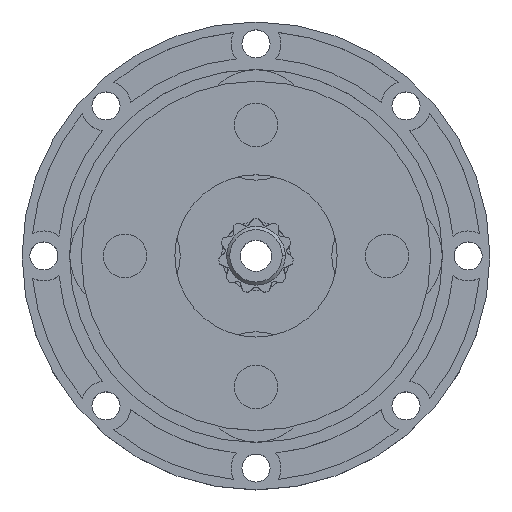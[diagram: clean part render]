
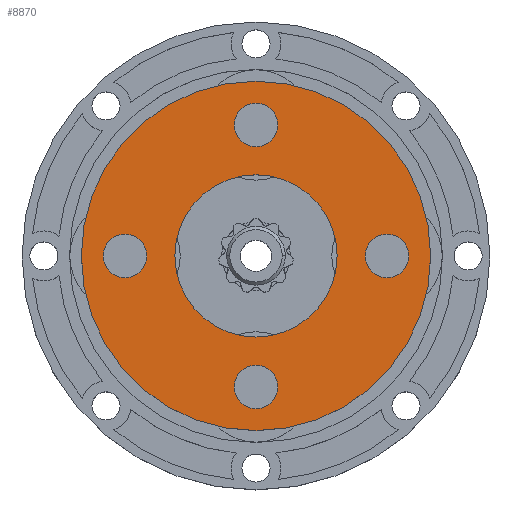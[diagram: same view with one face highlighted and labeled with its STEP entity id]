
A CAD part, top view. The second image highlights one B-rep face of the part: STEP entity #8870.
In plain terms, the highlighted planar face has unit normal (0, 0, 1).
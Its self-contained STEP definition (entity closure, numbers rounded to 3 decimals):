
#82 = EDGE_CURVE ( 'NONE', #8719, #13362, #825, .T. ) ;
#258 = ORIENTED_EDGE ( 'NONE', *, *, #1738, .T. ) ;
#490 = ORIENTED_EDGE ( 'NONE', *, *, #857, .F. ) ;
#825 = CIRCLE ( 'NONE', #10639, 13. ) ;
#857 = EDGE_CURVE ( 'NONE', #2192, #1147, #9424, .T. ) ;
#896 = AXIS2_PLACEMENT_3D ( 'NONE', #1658, #8513, #16490 ) ;
#1079 = AXIS2_PLACEMENT_3D ( 'NONE', #4297, #9666, #9488 ) ;
#1147 = VERTEX_POINT ( 'NONE', #15479 ) ;
#1247 = CARTESIAN_POINT ( 'NONE',  ( -3.5, 21., 8.35 ) ) ;
#1289 = ORIENTED_EDGE ( 'NONE', *, *, #10011, .F. ) ;
#1387 = VERTEX_POINT ( 'NONE', #15266 ) ;
#1414 = EDGE_CURVE ( 'NONE', #9799, #2969, #16606, .T. ) ;
#1429 = EDGE_LOOP ( 'NONE', ( #13958, #15145 ) ) ;
#1658 = CARTESIAN_POINT ( 'NONE',  ( 0., 0., 8.35 ) ) ;
#1738 = EDGE_CURVE ( 'NONE', #2969, #9799, #8766, .T. ) ;
#2075 = CIRCLE ( 'NONE', #15250, 3.5 ) ;
#2192 = VERTEX_POINT ( 'NONE', #9101 ) ;
#2398 = EDGE_LOOP ( 'NONE', ( #12023, #3997 ) ) ;
#2537 = CARTESIAN_POINT ( 'NONE',  ( 0., 0., 8.35 ) ) ;
#2587 = AXIS2_PLACEMENT_3D ( 'NONE', #6740, #11918, #14721 ) ;
#2662 = DIRECTION ( 'NONE',  ( 0., 1., 0. ) ) ;
#2969 = VERTEX_POINT ( 'NONE', #3595 ) ;
#3595 = CARTESIAN_POINT ( 'NONE',  ( -28., 0., 8.35 ) ) ;
#3893 = CARTESIAN_POINT ( 'NONE',  ( 21., -3.5, 8.35 ) ) ;
#3910 = AXIS2_PLACEMENT_3D ( 'NONE', #11739, #10517, #6231 ) ;
#3997 = ORIENTED_EDGE ( 'NONE', *, *, #8996, .F. ) ;
#4272 = DIRECTION ( 'NONE',  ( 0., -1., 0. ) ) ;
#4297 = CARTESIAN_POINT ( 'NONE',  ( 0., 21., 8.35 ) ) ;
#4818 = FACE_BOUND ( 'NONE', #8876, .T. ) ;
#5043 = CIRCLE ( 'NONE', #8402, 3.5 ) ;
#5054 = DIRECTION ( 'NONE',  ( 0., 0., 1. ) ) ;
#5391 = CARTESIAN_POINT ( 'NONE',  ( -21., 0., 8.35 ) ) ;
#5566 = DIRECTION ( 'NONE',  ( 0., 0., 1. ) ) ;
#5601 = ORIENTED_EDGE ( 'NONE', *, *, #15972, .F. ) ;
#5800 = FACE_BOUND ( 'NONE', #2398, .T. ) ;
#5826 = ORIENTED_EDGE ( 'NONE', *, *, #15313, .F. ) ;
#6017 = AXIS2_PLACEMENT_3D ( 'NONE', #13117, #11547, #14451 ) ;
#6231 = DIRECTION ( 'NONE',  ( 0., -1., 0. ) ) ;
#6293 = DIRECTION ( 'NONE',  ( 1., 0., 0. ) ) ;
#6562 = ORIENTED_EDGE ( 'NONE', *, *, #8042, .F. ) ;
#6740 = CARTESIAN_POINT ( 'NONE',  ( 0., 0., 8.35 ) ) ;
#7458 = DIRECTION ( 'NONE',  ( 1., 0., 0. ) ) ;
#7466 = ORIENTED_EDGE ( 'NONE', *, *, #11848, .F. ) ;
#7544 = FACE_OUTER_BOUND ( 'NONE', #12976, .T. ) ;
#7991 = DIRECTION ( 'NONE',  ( 1., 0., 0. ) ) ;
#8042 = EDGE_CURVE ( 'NONE', #14918, #15285, #9767, .T. ) ;
#8161 = CARTESIAN_POINT ( 'NONE',  ( 13., 0., 8.35 ) ) ;
#8402 = AXIS2_PLACEMENT_3D ( 'NONE', #14177, #17166, #6293 ) ;
#8509 = AXIS2_PLACEMENT_3D ( 'NONE', #11713, #5054, #2662 ) ;
#8513 = DIRECTION ( 'NONE',  ( 0., 0., 1. ) ) ;
#8719 = VERTEX_POINT ( 'NONE', #8161 ) ;
#8766 = CIRCLE ( 'NONE', #2587, 28. ) ;
#8870 = ADVANCED_FACE ( 'NONE', ( #15268, #11393, #5800, #4818, #7544, #11306 ), #16668, .T. ) ;
#8876 = EDGE_LOOP ( 'NONE', ( #1289, #7466 ) ) ;
#8996 = EDGE_CURVE ( 'NONE', #10715, #1387, #11483, .T. ) ;
#9101 = CARTESIAN_POINT ( 'NONE',  ( -21., -3.5, 8.35 ) ) ;
#9424 = CIRCLE ( 'NONE', #8509, 3.5 ) ;
#9488 = DIRECTION ( 'NONE',  ( 1., 0., 0. ) ) ;
#9666 = DIRECTION ( 'NONE',  ( 0., 0., 1. ) ) ;
#9767 = CIRCLE ( 'NONE', #10872, 3.5 ) ;
#9799 = VERTEX_POINT ( 'NONE', #12646 ) ;
#9927 = CIRCLE ( 'NONE', #12429, 3.5 ) ;
#9964 = CARTESIAN_POINT ( 'NONE',  ( -13., 0., 8.35 ) ) ;
#10011 = EDGE_CURVE ( 'NONE', #11139, #16307, #15659, .T. ) ;
#10517 = DIRECTION ( 'NONE',  ( 0., 0., 1. ) ) ;
#10518 = DIRECTION ( 'NONE',  ( 0., 0., 1. ) ) ;
#10638 = AXIS2_PLACEMENT_3D ( 'NONE', #15440, #11133, #7458 ) ;
#10639 = AXIS2_PLACEMENT_3D ( 'NONE', #2537, #13070, #7991 ) ;
#10715 = VERTEX_POINT ( 'NONE', #3893 ) ;
#10872 = AXIS2_PLACEMENT_3D ( 'NONE', #16536, #5566, #15221 ) ;
#11133 = DIRECTION ( 'NONE',  ( 0., 0., 1. ) ) ;
#11139 = VERTEX_POINT ( 'NONE', #1247 ) ;
#11306 = FACE_BOUND ( 'NONE', #1429, .T. ) ;
#11393 = FACE_BOUND ( 'NONE', #15161, .T. ) ;
#11483 = CIRCLE ( 'NONE', #3910, 3.5 ) ;
#11547 = DIRECTION ( 'NONE',  ( 0., 0., 1. ) ) ;
#11713 = CARTESIAN_POINT ( 'NONE',  ( -21., 0., 8.35 ) ) ;
#11739 = CARTESIAN_POINT ( 'NONE',  ( 21., 0., 8.35 ) ) ;
#11848 = EDGE_CURVE ( 'NONE', #16307, #11139, #5043, .T. ) ;
#11918 = DIRECTION ( 'NONE',  ( 0., 0., 1. ) ) ;
#12023 = ORIENTED_EDGE ( 'NONE', *, *, #16152, .F. ) ;
#12056 = DIRECTION ( 'NONE',  ( 0., 0., 1. ) ) ;
#12168 = CARTESIAN_POINT ( 'NONE',  ( 21., 0., 8.35 ) ) ;
#12429 = AXIS2_PLACEMENT_3D ( 'NONE', #17281, #10518, #13055 ) ;
#12646 = CARTESIAN_POINT ( 'NONE',  ( 28., 0., 8.35 ) ) ;
#12976 = EDGE_LOOP ( 'NONE', ( #258, #17012 ) ) ;
#13055 = DIRECTION ( 'NONE',  ( -1., 0., 0. ) ) ;
#13070 = DIRECTION ( 'NONE',  ( 0., 0., 1. ) ) ;
#13117 = CARTESIAN_POINT ( 'NONE',  ( 0., 0., 8.35 ) ) ;
#13206 = CARTESIAN_POINT ( 'NONE',  ( 3.5, -21., 8.35 ) ) ;
#13294 = DIRECTION ( 'NONE',  ( 0., 1., 0. ) ) ;
#13362 = VERTEX_POINT ( 'NONE', #9964 ) ;
#13958 = ORIENTED_EDGE ( 'NONE', *, *, #15182, .F. ) ;
#14177 = CARTESIAN_POINT ( 'NONE',  ( 0., 21., 8.35 ) ) ;
#14427 = AXIS2_PLACEMENT_3D ( 'NONE', #5391, #12056, #13294 ) ;
#14451 = DIRECTION ( 'NONE',  ( 1., 0., 0. ) ) ;
#14721 = DIRECTION ( 'NONE',  ( 1., 0., 0. ) ) ;
#14887 = CARTESIAN_POINT ( 'NONE',  ( -3.5, -21., 8.35 ) ) ;
#14918 = VERTEX_POINT ( 'NONE', #14887 ) ;
#14968 = CIRCLE ( 'NONE', #6017, 13. ) ;
#15145 = ORIENTED_EDGE ( 'NONE', *, *, #82, .F. ) ;
#15161 = EDGE_LOOP ( 'NONE', ( #5601, #6562 ) ) ;
#15182 = EDGE_CURVE ( 'NONE', #13362, #8719, #14968, .T. ) ;
#15221 = DIRECTION ( 'NONE',  ( -1., 0., 0. ) ) ;
#15250 = AXIS2_PLACEMENT_3D ( 'NONE', #12168, #16129, #4272 ) ;
#15266 = CARTESIAN_POINT ( 'NONE',  ( 21., 3.5, 8.35 ) ) ;
#15268 = FACE_BOUND ( 'NONE', #16097, .T. ) ;
#15285 = VERTEX_POINT ( 'NONE', #13206 ) ;
#15313 = EDGE_CURVE ( 'NONE', #1147, #2192, #16389, .T. ) ;
#15440 = CARTESIAN_POINT ( 'NONE',  ( 0., 0., 8.35 ) ) ;
#15479 = CARTESIAN_POINT ( 'NONE',  ( -21., 3.5, 8.35 ) ) ;
#15659 = CIRCLE ( 'NONE', #1079, 3.5 ) ;
#15972 = EDGE_CURVE ( 'NONE', #15285, #14918, #9927, .T. ) ;
#16097 = EDGE_LOOP ( 'NONE', ( #490, #5826 ) ) ;
#16129 = DIRECTION ( 'NONE',  ( 0., 0., 1. ) ) ;
#16152 = EDGE_CURVE ( 'NONE', #1387, #10715, #2075, .T. ) ;
#16307 = VERTEX_POINT ( 'NONE', #16388 ) ;
#16388 = CARTESIAN_POINT ( 'NONE',  ( 3.5, 21., 8.35 ) ) ;
#16389 = CIRCLE ( 'NONE', #14427, 3.5 ) ;
#16490 = DIRECTION ( 'NONE',  ( 1., 0., 0. ) ) ;
#16536 = CARTESIAN_POINT ( 'NONE',  ( 0., -21., 8.35 ) ) ;
#16606 = CIRCLE ( 'NONE', #896, 28. ) ;
#16668 = PLANE ( 'NONE',  #10638 ) ;
#17012 = ORIENTED_EDGE ( 'NONE', *, *, #1414, .T. ) ;
#17166 = DIRECTION ( 'NONE',  ( 0., 0., 1. ) ) ;
#17281 = CARTESIAN_POINT ( 'NONE',  ( 0., -21., 8.35 ) ) ;
